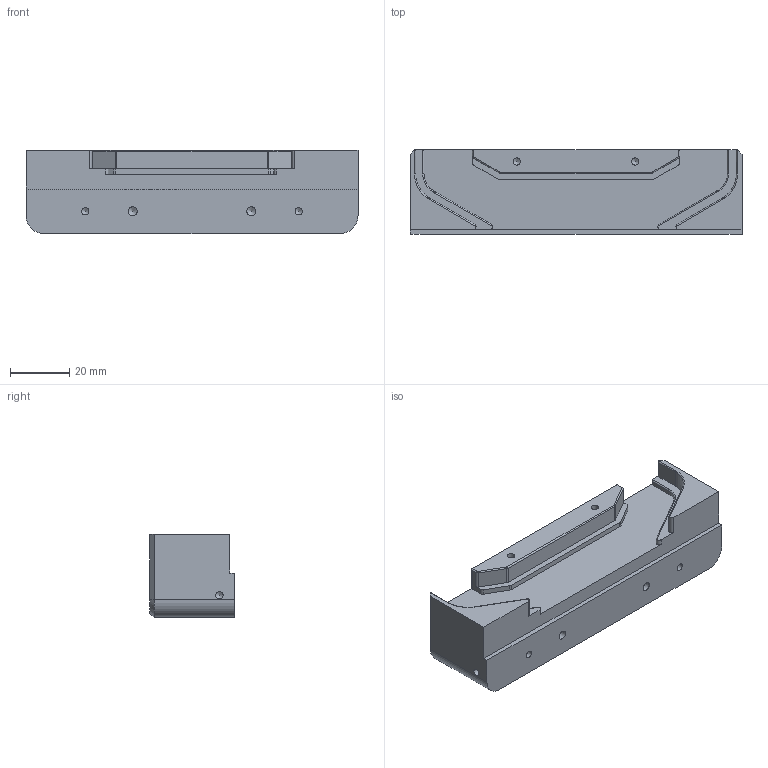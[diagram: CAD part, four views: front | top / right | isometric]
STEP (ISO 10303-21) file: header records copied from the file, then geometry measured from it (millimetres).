
FILE_DESCRIPTION(/* description */ ('Height Guide'),/* implementation_level */ '2;1');
FILE_NAME(/* name */ 'Z:\Werkstatt Server\Projekte\Atlas\Entwicklung u. Konstruktion\Konstruktion\CAD Daten\ITkPixToolV2.0\Stencil Tool\ITPTv2.03.00.02.stp',/* time_stamp */ '2021-08-06T14:10:10+02:00',/* author */ ('Tim Kanngießer'),/* organization */ (''),/* preprocessor_version */ 'ST-DEVELOPER v18.1',/* originating_system */ 'Autodesk Inventor 2022',/* authorisation */ '');
FILE_SCHEMA (('AUTOMOTIVE_DESIGN { 1 0 10303 214 3 1 1 }'));
Length unit declared in the file: millimetre
Products named in the file (1): ITPTv2.03.00.02
Bounding box: 112 x 28.5 x 28 mm (x, y, z)
Volume: 70033.2 mm3; surface area: 14915.5 mm2
Topology: 1 solids, 1 shells, 120 faces, 322 edges, 204 vertices
Faces by surface type: cylinder 49, plane 33, bspline 24, cone 10, torus 4
Full cylindrical faces by diameter (mm): 2.459 x6, 3 x2
Entity records: 5195 total; most frequent: CARTESIAN_POINT 2283, ORIENTED_EDGE 628, DIRECTION 558, EDGE_CURVE 314, AXIS2_PLACEMENT_3D 205, VERTEX_POINT 204, LINE 148, VECTOR 148
